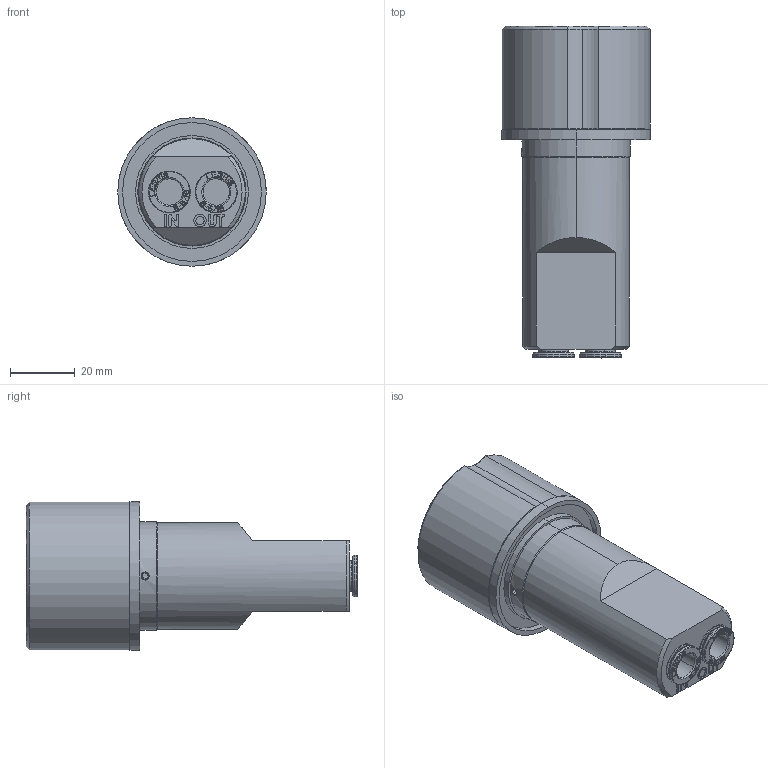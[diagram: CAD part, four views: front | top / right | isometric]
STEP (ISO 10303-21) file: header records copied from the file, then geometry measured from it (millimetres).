
FILE_DESCRIPTION (( 'STEP AP203' ), '1' );
FILE_NAME ('Mengenregulierung.STEP', '2016-01-08T15:13:27', ( '' ), ( '' ), 'SwSTEP 2.0', 'SolidWorks 2012', '' );
FILE_SCHEMA (( 'CONFIG_CONTROL_DESIGN' ));
Length unit declared in the file: millimetre
Products named in the file (1): Mengenregulierung
Bounding box: 46 x 102.85 x 46 mm (x, y, z)
Surface area: 17605.3 mm2 (no closed solid volume)
Topology: 0 solids, 12 shells, 340 faces, 2005 edges, 1582 vertices
Faces by surface type: plane 244, cylinder 54, bspline 25, cone 17
Entity records: 20050 total; most frequent: CARTESIAN_POINT 5221, DIRECTION 2748, ORIENTED_EDGE 2698, EDGE_CURVE 2005, VECTOR 1786, LINE 1786, VERTEX_POINT 1582, AXIS2_PLACEMENT_3D 481
